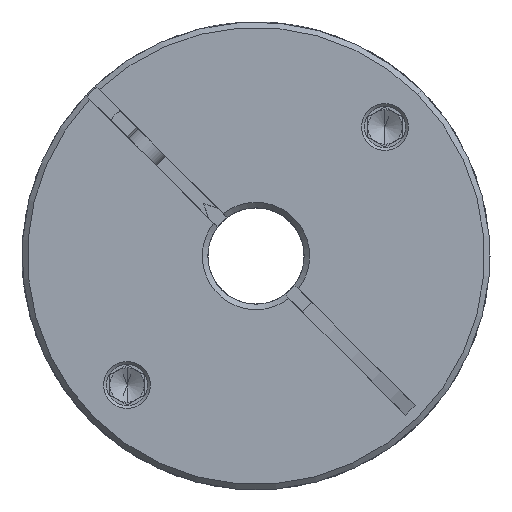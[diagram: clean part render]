
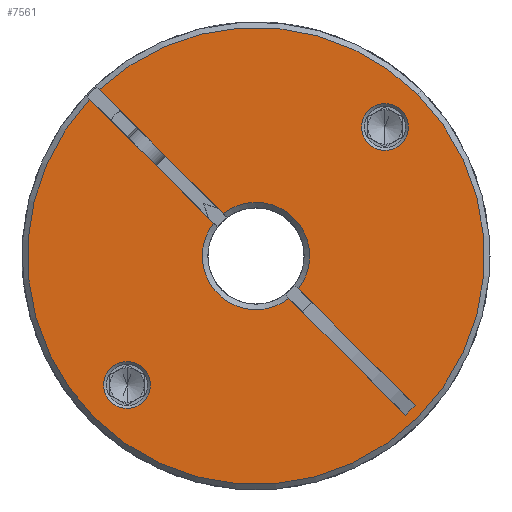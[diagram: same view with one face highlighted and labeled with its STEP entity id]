
A CAD part, front view. The second image highlights one B-rep face of the part: STEP entity #7561.
In plain terms, the highlighted planar face has unit normal (0, -1, 0).
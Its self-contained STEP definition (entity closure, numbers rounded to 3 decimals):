
#30 = VECTOR ( 'NONE', #18042, 1000. ) ;
#134 = CIRCLE ( 'NONE', #17901, 33.2 ) ;
#137 = VERTEX_POINT ( 'NONE', #2960 ) ;
#361 = DIRECTION ( 'NONE',  ( 0.707, 0., 0.707 ) ) ;
#411 = VECTOR ( 'NONE', #3361, 1000. ) ;
#474 = EDGE_CURVE ( 'NONE', #651, #17095, #11598, .T. ) ;
#489 = CARTESIAN_POINT ( 'NONE',  ( 20.741, -67.045, 91.476 ) ) ;
#651 = VERTEX_POINT ( 'NONE', #6646 ) ;
#917 = LINE ( 'NONE', #4540, #10579 ) ;
#1062 = EDGE_CURVE ( 'NONE', #137, #18620, #7605, .T. ) ;
#1292 = VERTEX_POINT ( 'NONE', #12764 ) ;
#1427 = DIRECTION ( 'NONE',  ( 0.707, 0., 0.707 ) ) ;
#1502 = EDGE_CURVE ( 'NONE', #1292, #18413, #2392, .T. ) ;
#1663 = ORIENTED_EDGE ( 'NONE', *, *, #16337, .T. ) ;
#1842 = LINE ( 'NONE', #2243, #14654 ) ;
#1982 = AXIS2_PLACEMENT_3D ( 'NONE', #13026, #14480, #4705 ) ;
#2025 = DIRECTION ( 'NONE',  ( 0., 1., 0. ) ) ;
#2028 = DIRECTION ( 'NONE',  ( 0., 1., 0. ) ) ;
#2243 = CARTESIAN_POINT ( 'NONE',  ( 18.988, -67.045, 44.862 ) ) ;
#2383 = ORIENTED_EDGE ( 'NONE', *, *, #16732, .T. ) ;
#2392 = LINE ( 'NONE', #8128, #30 ) ;
#2535 = EDGE_LOOP ( 'NONE', ( #6656, #16459 ) ) ;
#2786 = ORIENTED_EDGE ( 'NONE', *, *, #1502, .F. ) ;
#2861 = DIRECTION ( 'NONE',  ( 0.707, 0., 0.707 ) ) ;
#2958 = DIRECTION ( 'NONE',  ( 0.707, 0., -0.707 ) ) ;
#2960 = CARTESIAN_POINT ( 'NONE',  ( -19.069, -67.045, 51.666 ) ) ;
#3065 = ORIENTED_EDGE ( 'NONE', *, *, #10544, .T. ) ;
#3088 = AXIS2_PLACEMENT_3D ( 'NONE', #16223, #11249, #6176 ) ;
#3361 = DIRECTION ( 'NONE',  ( 0.707, 0., -0.707 ) ) ;
#3589 = DIRECTION ( 'NONE',  ( 0.707, 0., 0.707 ) ) ;
#3936 = VERTEX_POINT ( 'NONE', #8742 ) ;
#3976 = AXIS2_PLACEMENT_3D ( 'NONE', #7951, #9673, #4637 ) ;
#4017 = AXIS2_PLACEMENT_3D ( 'NONE', #18696, #10145, #3589 ) ;
#4540 = CARTESIAN_POINT ( 'NONE',  ( -2.028, -67.045, 68.707 ) ) ;
#4637 = DIRECTION ( 'NONE',  ( 0.707, 0., 0.707 ) ) ;
#4705 = DIRECTION ( 'NONE',  ( 0.707, 0., 0.707 ) ) ;
#5173 = CARTESIAN_POINT ( 'NONE',  ( -2.735, -67.045, 68. ) ) ;
#5440 = CARTESIAN_POINT ( 'NONE',  ( -26.211, -67.045, 44.524 ) ) ;
#5445 = ORIENTED_EDGE ( 'NONE', *, *, #13087, .F. ) ;
#5508 = DIRECTION ( 'NONE',  ( -0.707, 0., -0.707 ) ) ;
#5534 = VERTEX_POINT ( 'NONE', #489 ) ;
#5547 = VERTEX_POINT ( 'NONE', #5440 ) ;
#5695 = EDGE_CURVE ( 'NONE', #5534, #3936, #8199, .T. ) ;
#5892 = VERTEX_POINT ( 'NONE', #19274 ) ;
#6176 = DIRECTION ( 'NONE',  ( 0.707, 0., 0.707 ) ) ;
#6328 = ORIENTED_EDGE ( 'NONE', *, *, #474, .T. ) ;
#6579 = EDGE_CURVE ( 'NONE', #6970, #5892, #917, .T. ) ;
#6646 = CARTESIAN_POINT ( 'NONE',  ( 13.599, -67.045, 84.334 ) ) ;
#6656 = ORIENTED_EDGE ( 'NONE', *, *, #1062, .T. ) ;
#6852 = DIRECTION ( 'NONE',  ( 0.707, 0., 0.707 ) ) ;
#6970 = VERTEX_POINT ( 'NONE', #11244 ) ;
#7352 = EDGE_CURVE ( 'NONE', #5892, #18413, #1842, .T. ) ;
#7561 = ADVANCED_FACE ( 'NONE', ( #20955, #17274, #8619 ), #19896, .T. ) ;
#7605 = CIRCLE ( 'NONE', #3088, 3.4 ) ;
#7650 = CARTESIAN_POINT ( 'NONE',  ( -26.908, -67.045, 90.758 ) ) ;
#7663 = ORIENTED_EDGE ( 'NONE', *, *, #13225, .T. ) ;
#7698 = LINE ( 'NONE', #15036, #411 ) ;
#7951 = CARTESIAN_POINT ( 'NONE',  ( -2.735, -67.045, 68. ) ) ;
#7959 = DIRECTION ( 'NONE',  ( 0., 1., 0. ) ) ;
#8128 = CARTESIAN_POINT ( 'NONE',  ( -3.442, -67.045, 67.293 ) ) ;
#8189 = DIRECTION ( 'NONE',  ( 0.707, 0., 0.707 ) ) ;
#8199 = CIRCLE ( 'NONE', #3976, 33.2 ) ;
#8207 = EDGE_CURVE ( 'NONE', #5547, #5534, #21434, .T. ) ;
#8580 = CARTESIAN_POINT ( 'NONE',  ( -2.735, -67.045, 68. ) ) ;
#8619 = FACE_OUTER_BOUND ( 'NONE', #15271, .T. ) ;
#8656 = CARTESIAN_POINT ( 'NONE',  ( 18.407, -67.045, 89.142 ) ) ;
#8742 = CARTESIAN_POINT ( 'NONE',  ( -25.493, -67.045, 92.172 ) ) ;
#9104 = ORIENTED_EDGE ( 'NONE', *, *, #10869, .T. ) ;
#9456 = ORIENTED_EDGE ( 'NONE', *, *, #5695, .T. ) ;
#9557 = AXIS2_PLACEMENT_3D ( 'NONE', #10377, #2028, #361 ) ;
#9568 = EDGE_LOOP ( 'NONE', ( #2383, #6328 ) ) ;
#9673 = DIRECTION ( 'NONE',  ( 0., -1., 0. ) ) ;
#9831 = CARTESIAN_POINT ( 'NONE',  ( -2.735, -67.045, 68. ) ) ;
#9867 = ORIENTED_EDGE ( 'NONE', *, *, #8207, .T. ) ;
#10008 = CARTESIAN_POINT ( 'NONE',  ( -3.442, -67.045, 67.293 ) ) ;
#10035 = CIRCLE ( 'NONE', #11098, 7.8 ) ;
#10145 = DIRECTION ( 'NONE',  ( 0., 1., 0. ) ) ;
#10377 = CARTESIAN_POINT ( 'NONE',  ( -2.735, -67.045, 68. ) ) ;
#10544 = EDGE_CURVE ( 'NONE', #11583, #6970, #13226, .T. ) ;
#10579 = VECTOR ( 'NONE', #2958, 1000. ) ;
#10869 = EDGE_CURVE ( 'NONE', #3936, #17507, #7698, .T. ) ;
#11098 = AXIS2_PLACEMENT_3D ( 'NONE', #8580, #2025, #13634 ) ;
#11244 = CARTESIAN_POINT ( 'NONE',  ( 3.442, -67.045, 63.237 ) ) ;
#11249 = DIRECTION ( 'NONE',  ( 0., 1., 0. ) ) ;
#11375 = CARTESIAN_POINT ( 'NONE',  ( -8.912, -67.045, 72.763 ) ) ;
#11583 = VERTEX_POINT ( 'NONE', #17571 ) ;
#11598 = CIRCLE ( 'NONE', #1982, 3.4 ) ;
#11882 = AXIS2_PLACEMENT_3D ( 'NONE', #16156, #12854, #2861 ) ;
#12117 = ORIENTED_EDGE ( 'NONE', *, *, #6579, .T. ) ;
#12122 = DIRECTION ( 'NONE',  ( 0.707, 0., 0.707 ) ) ;
#12764 = CARTESIAN_POINT ( 'NONE',  ( 2.028, -67.045, 61.823 ) ) ;
#12854 = DIRECTION ( 'NONE',  ( 0., 1., 0. ) ) ;
#13026 = CARTESIAN_POINT ( 'NONE',  ( 16.003, -67.045, 86.738 ) ) ;
#13087 = EDGE_CURVE ( 'NONE', #14658, #17462, #14704, .T. ) ;
#13225 = EDGE_CURVE ( 'NONE', #1292, #17462, #14580, .T. ) ;
#13226 = CIRCLE ( 'NONE', #21021, 7.8 ) ;
#13634 = DIRECTION ( 'NONE',  ( 0.707, 0., 0.707 ) ) ;
#13973 = DIRECTION ( 'NONE',  ( 0., -1., 0. ) ) ;
#13992 = CIRCLE ( 'NONE', #4017, 3.4 ) ;
#14480 = DIRECTION ( 'NONE',  ( 0., 1., 0. ) ) ;
#14580 = CIRCLE ( 'NONE', #9557, 7.8 ) ;
#14654 = VECTOR ( 'NONE', #5508, 1000. ) ;
#14658 = VERTEX_POINT ( 'NONE', #7650 ) ;
#14704 = LINE ( 'NONE', #10008, #19101 ) ;
#14902 = EDGE_CURVE ( 'NONE', #18620, #137, #13992, .T. ) ;
#15000 = CARTESIAN_POINT ( 'NONE',  ( -23.878, -67.045, 46.858 ) ) ;
#15036 = CARTESIAN_POINT ( 'NONE',  ( -2.028, -67.045, 68.707 ) ) ;
#15271 = EDGE_LOOP ( 'NONE', ( #5445, #1663, #9867, #9456, #9104, #21267, #3065, #12117, #17830, #2786, #7663 ) ) ;
#16156 = CARTESIAN_POINT ( 'NONE',  ( 16.003, -67.045, 86.738 ) ) ;
#16223 = CARTESIAN_POINT ( 'NONE',  ( -21.473, -67.045, 49.262 ) ) ;
#16337 = EDGE_CURVE ( 'NONE', #14658, #5547, #134, .T. ) ;
#16459 = ORIENTED_EDGE ( 'NONE', *, *, #14902, .T. ) ;
#16732 = EDGE_CURVE ( 'NONE', #17095, #651, #19187, .T. ) ;
#16900 = DIRECTION ( 'NONE',  ( 0., -1., 0. ) ) ;
#17081 = EDGE_CURVE ( 'NONE', #17507, #11583, #10035, .T. ) ;
#17095 = VERTEX_POINT ( 'NONE', #8656 ) ;
#17274 = FACE_BOUND ( 'NONE', #2535, .T. ) ;
#17462 = VERTEX_POINT ( 'NONE', #11375 ) ;
#17507 = VERTEX_POINT ( 'NONE', #21618 ) ;
#17571 = CARTESIAN_POINT ( 'NONE',  ( 2.78, -67.045, 73.515 ) ) ;
#17830 = ORIENTED_EDGE ( 'NONE', *, *, #7352, .T. ) ;
#17901 = AXIS2_PLACEMENT_3D ( 'NONE', #18903, #13973, #12122 ) ;
#18042 = DIRECTION ( 'NONE',  ( 0.707, 0., -0.707 ) ) ;
#18097 = DIRECTION ( 'NONE',  ( 0., -1., 0. ) ) ;
#18219 = DIRECTION ( 'NONE',  ( 0.707, 0., -0.707 ) ) ;
#18413 = VERTEX_POINT ( 'NONE', #20811 ) ;
#18580 = AXIS2_PLACEMENT_3D ( 'NONE', #21685, #18097, #1427 ) ;
#18620 = VERTEX_POINT ( 'NONE', #15000 ) ;
#18696 = CARTESIAN_POINT ( 'NONE',  ( -21.473, -67.045, 49.262 ) ) ;
#18903 = CARTESIAN_POINT ( 'NONE',  ( -2.735, -67.045, 68. ) ) ;
#19101 = VECTOR ( 'NONE', #18219, 1000. ) ;
#19187 = CIRCLE ( 'NONE', #11882, 3.4 ) ;
#19274 = CARTESIAN_POINT ( 'NONE',  ( 20.402, -67.045, 46.277 ) ) ;
#19896 = PLANE ( 'NONE',  #18580 ) ;
#20563 = AXIS2_PLACEMENT_3D ( 'NONE', #5173, #16900, #6852 ) ;
#20811 = CARTESIAN_POINT ( 'NONE',  ( 18.988, -67.045, 44.862 ) ) ;
#20955 = FACE_BOUND ( 'NONE', #9568, .T. ) ;
#21021 = AXIS2_PLACEMENT_3D ( 'NONE', #9831, #7959, #8189 ) ;
#21267 = ORIENTED_EDGE ( 'NONE', *, *, #17081, .T. ) ;
#21434 = CIRCLE ( 'NONE', #20563, 33.2 ) ;
#21618 = CARTESIAN_POINT ( 'NONE',  ( -7.498, -67.045, 74.177 ) ) ;
#21685 = CARTESIAN_POINT ( 'NONE',  ( -2.735, -67.045, 68. ) ) ;
